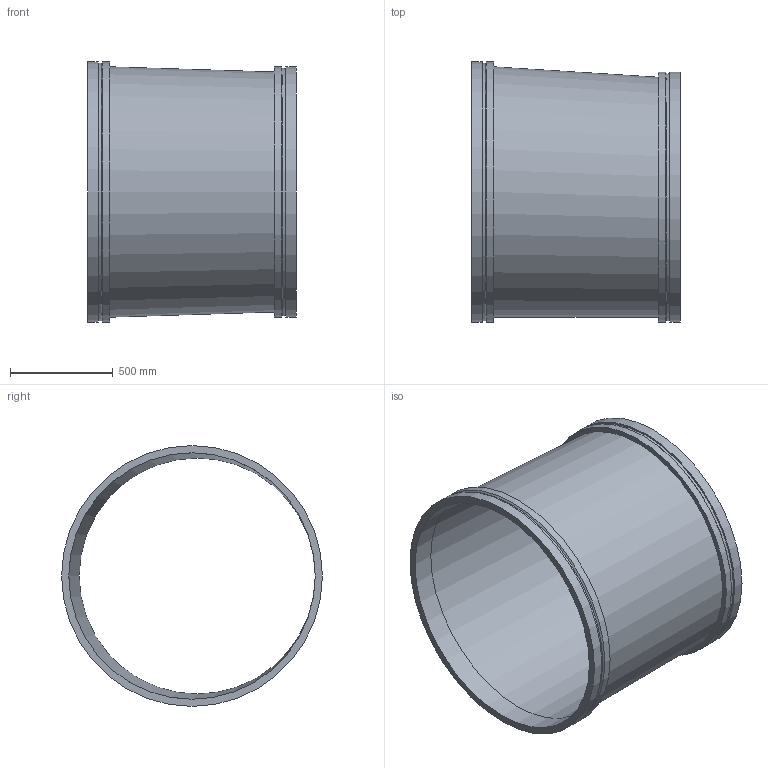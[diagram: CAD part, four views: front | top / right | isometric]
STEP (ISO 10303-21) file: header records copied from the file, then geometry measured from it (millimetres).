
FILE_DESCRIPTION(/* description */ ('VIC REDUCER ECCENTRIC No W51-VR','CAx-IF Rec.Pracs.---Representation and Presentation of Product Manufacturing Information (PMI)---4.0---2014-10-13'),/* implementation_level */ '2;1');
FILE_NAME(/* name */ 'C:\Users\kkamble\AppData\Roaming\Autodesk\ApplicationPlugins\Back Up\Victaulic_Vic-Ring_Reducer Eccentric_No W51 VR (AGR)\Victaulic_Vic-Ring_Reducer Eccentric_No W51 VR (AGR)_48.0x46.0 (1200x1150).stp',/* time_stamp */ '2020-09-10T11:51:41+05:00',/* author */ ('CONSTRUCTION PIPING SERVICES'),/* organization */ ('Victaulic'),/* preprocessor_version */ 'ST-DEVELOPER v17.2',/* originating_system */ 'Autodesk Inventor 2019',/* authorisation */ '');
FILE_SCHEMA (('AP242_MANAGED_MODEL_BASED_3D_ENGINEERING_MIM_LF { 1 0 10303 442 1 1 4 }'));
Length unit declared in the file: inch
Products named in the file (1): W51 VR-48.0x46.0
Bounding box: 1016 x 1270 x 1270 mm (x, y, z)
Volume: 56032451.1 mm3; surface area: 8147843.7 mm2
Topology: 1 solids, 1 shells, 18 faces, 49 edges, 37 vertices
Faces by surface type: cylinder 8, plane 6, cone 2, bspline 2
Full cylindrical faces by diameter (mm): 1149.35 x1, 1200.15 x1, 1203.325 x1, 1219.2 x2, 1254.125 x1, 1270 x2
Entity records: 792 total; most frequent: CARTESIAN_POINT 158, DIRECTION 144, ORIENTED_EDGE 98, AXIS2_PLACEMENT_3D 67, EDGE_CURVE 49, CIRCLE 37, VERTEX_POINT 37, EDGE_LOOP 24
